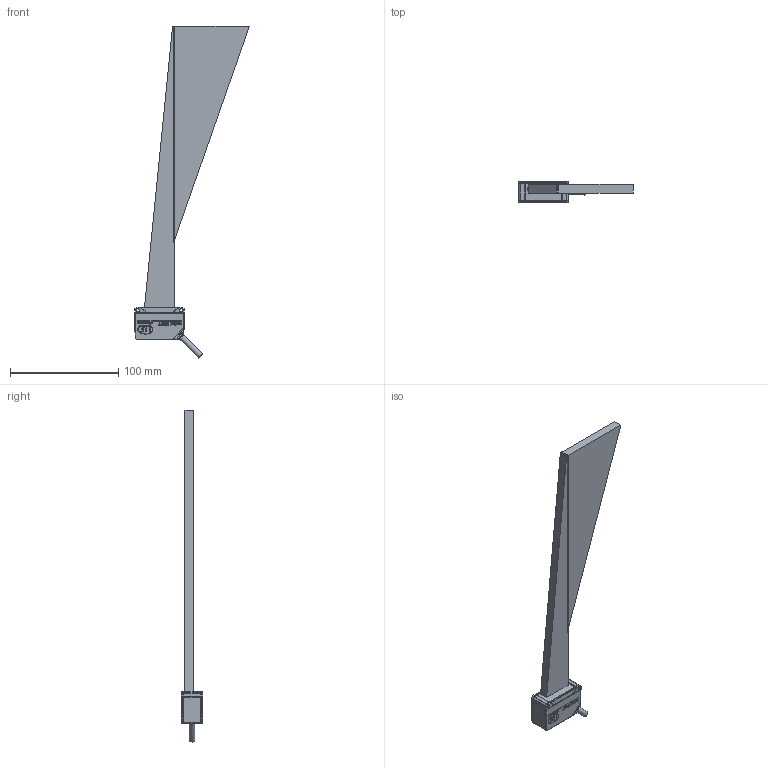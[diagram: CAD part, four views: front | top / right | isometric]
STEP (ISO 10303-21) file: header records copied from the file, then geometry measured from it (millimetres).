
FILE_DESCRIPTION (( 'STEP AP214' ), '1' );
FILE_NAME ('ILD1320-1420_MB200.STEP', '2017-02-09T09:18:04', ( '' ), ( '' ), 'SwSTEP 2.0', 'SolidWorks 2016', '' );
FILE_SCHEMA (( 'AUTOMOTIVE_DESIGN' ));
Length unit declared in the file: millimetre
Products named in the file (5): reflexion_free_space_MB200_000; laserbeam_tolerance_000; ILD1320-1420_MB200; ILD1320-1420_000; optical_free_space_MB200_000
Assembly tree (4 placements, depth 2):
  ILD1320-1420_MB200
    ILD1320-1420_000
    laserbeam_tolerance_000
    optical_free_space_MB200_000
    reflexion_free_space_MB200_000
Bounding box: 105.99 x 20 x 306.92 mm (x, y, z)
Volume: 112951.7 mm3; surface area: 39837.1 mm2
Topology: 6 solids, 8 shells, 1767 faces, 4426 edges, 2696 vertices
Faces by surface type: bspline 840, plane 567, cylinder 348, cone 12
Full cylindrical faces by diameter (mm): 2.7 x2, 3 x2, 3.3 x1, 5.4 x1
Entity records: 66604 total; most frequent: CARTESIAN_POINT 31102, ORIENTED_EDGE 8684, DIRECTION 4875, EDGE_CURVE 4342, VERTEX_POINT 2682, LINE 2001, VECTOR 2001, EDGE_LOOP 1862
